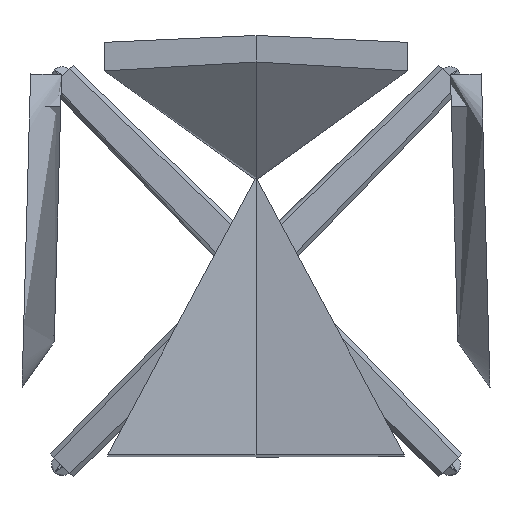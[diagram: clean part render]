
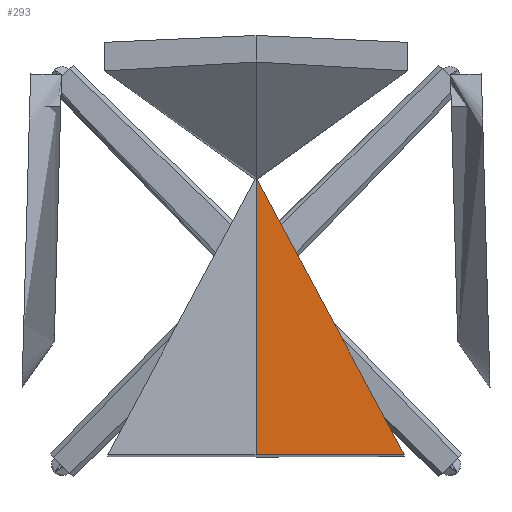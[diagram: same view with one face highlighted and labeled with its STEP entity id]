
A CAD part, top view. The second image highlights one B-rep face of the part: STEP entity #293.
In plain terms, the highlighted free-form (B-spline) face has degree [3, 3] with [4, 9] control points.
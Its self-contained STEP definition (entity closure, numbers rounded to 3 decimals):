
#23=B_SPLINE_SURFACE_WITH_KNOTS('',3,3,((#8548,#8549,#8550,#8551,#8552,
#8553,#8554,#8555,#8556),(#8557,#8558,#8559,#8560,#8561,#8562,#8563,#8564,
#8565),(#8566,#8567,#8568,#8569,#8570,#8571,#8572,#8573,#8574),(#8575,#8576,
#8577,#8578,#8579,#8580,#8581,#8582,#8583)),.UNSPECIFIED.,.F.,.F.,.F.,(4,
4),(4,1,1,1,1,1,4),(0.,313.738),(-441.798,-368.165,
-294.532,-220.899,-147.266,-73.633,
0.),.UNSPECIFIED.);
#108=B_SPLINE_CURVE_WITH_KNOTS('',3,(#11294,#11295,#11296,#11297,#11298,
#11299,#11300,#11301,#11302),.UNSPECIFIED.,.F.,.F.,(4,1,1,1,1,1,4),(0.,
73.633,147.266,220.899,294.532,368.165,
441.798),.UNSPECIFIED.);
#111=B_SPLINE_CURVE_WITH_KNOTS('',3,(#11319,#11320,#11321,#11322,#11323,
#11324,#11325,#11326,#11327,#11328,#11329,#11330,#11331,#11332,#11333,#11334,
#11335,#11336,#11337,#11338,#11339,#11340,#11341,#11342,#11343),
 .UNSPECIFIED.,.F.,.F.,(4,1,1,1,1,1,1,1,1,1,1,1,1,1,2,1,1,1,1,1,1,4),(0.,
4.583,9.166,13.749,18.332,22.915,
27.498,36.664,54.995,73.327,91.659,
100.825,109.991,119.157,120.717,128.322,
146.654,164.986,183.318,201.649,219.981,
238.313),.UNSPECIFIED.);
#115=B_SPLINE_CURVE_WITH_KNOTS('',3,(#11450,#11451,#11452,#11453),
 .UNSPECIFIED.,.F.,.F.,(4,4),(-146.56,0.),.UNSPECIFIED.);
#116=B_SPLINE_CURVE_WITH_KNOTS('',3,(#11454,#11455,#11456,#11457,#11458),
 .UNSPECIFIED.,.F.,.F.,(4,1,4),(298.037,368.165,441.798),
 .UNSPECIFIED.);
#117=B_SPLINE_CURVE_WITH_KNOTS('',3,(#11459,#11460,#11461,#11462,#11463,
#11464,#11465),.UNSPECIFIED.,.F.,.F.,(4,3,4),(0.,146.56,313.738),
 .UNSPECIFIED.);
#118=B_SPLINE_CURVE_WITH_KNOTS('',3,(#11466,#11467,#11468,#11469,#11470,
#11471,#11472,#11473),.UNSPECIFIED.,.F.,.F.,(4,1,1,1,1,4),(67.257,
73.633,147.266,220.899,294.532,298.037),
 .UNSPECIFIED.);
#293=ADVANCED_FACE('',(#469),#23,.T.);
#469=FACE_OUTER_BOUND('',#657,.T.);
#657=EDGE_LOOP('',(#1030,#1031,#1032,#1033,#1034,#1035));
#1030=ORIENTED_EDGE('',*,*,#1683,.T.);
#1031=ORIENTED_EDGE('',*,*,#1687,.T.);
#1032=ORIENTED_EDGE('',*,*,#1680,.T.);
#1033=ORIENTED_EDGE('',*,*,#1689,.T.);
#1034=ORIENTED_EDGE('',*,*,#1688,.F.);
#1035=ORIENTED_EDGE('',*,*,#1690,.F.);
#1680=EDGE_CURVE('',#2313,#2312,#108,.T.);
#1683=EDGE_CURVE('',#2316,#2314,#111,.T.);
#1687=EDGE_CURVE('',#2314,#2313,#115,.T.);
#1688=EDGE_CURVE('',#2317,#2318,#116,.T.);
#1689=EDGE_CURVE('',#2312,#2318,#117,.T.);
#1690=EDGE_CURVE('',#2316,#2317,#118,.T.);
#2312=VERTEX_POINT('',#10930);
#2313=VERTEX_POINT('',#10931);
#2314=VERTEX_POINT('',#10932);
#2316=VERTEX_POINT('',#10934);
#2317=VERTEX_POINT('',#10935);
#2318=VERTEX_POINT('',#10936);
#8548=CARTESIAN_POINT('',(0.,104.914,437.761));
#8549=CARTESIAN_POINT('',(72.274,104.914,437.761));
#8550=CARTESIAN_POINT('',(139.814,105.391,447.316));
#8551=CARTESIAN_POINT('',(167.339,105.784,455.164));
#8552=CARTESIAN_POINT('',(204.305,105.447,448.434));
#8553=CARTESIAN_POINT('',(243.614,104.723,433.949));
#8554=CARTESIAN_POINT('',(201.158,103.488,409.242));
#8555=CARTESIAN_POINT('',(109.984,102.476,389.004));
#8556=CARTESIAN_POINT('',(0.,102.476,389.004));
#8557=CARTESIAN_POINT('',(0.,0.465,442.983));
#8558=CARTESIAN_POINT('',(72.274,0.465,442.983));
#8559=CARTESIAN_POINT('',(139.814,0.943,452.538));
#8560=CARTESIAN_POINT('',(167.339,1.335,460.386));
#8561=CARTESIAN_POINT('',(204.305,0.999,453.657));
#8562=CARTESIAN_POINT('',(243.614,0.275,439.172));
#8563=CARTESIAN_POINT('',(201.158,-0.961,414.465));
#8564=CARTESIAN_POINT('',(99.643,-2.234,389.004));
#8565=CARTESIAN_POINT('',(0.,-2.234,389.004));
#8566=CARTESIAN_POINT('',(0.,-103.985,448.205));
#8567=CARTESIAN_POINT('',(72.274,-103.985,448.205));
#8568=CARTESIAN_POINT('',(139.814,-103.507,457.761));
#8569=CARTESIAN_POINT('',(167.339,-103.115,465.608));
#8570=CARTESIAN_POINT('',(204.305,-103.451,458.879));
#8571=CARTESIAN_POINT('',(243.614,-104.175,444.394));
#8572=CARTESIAN_POINT('',(201.158,-105.411,419.687));
#8573=CARTESIAN_POINT('',(89.303,-106.945,389.004));
#8574=CARTESIAN_POINT('',(0.,-106.945,389.004));
#8575=CARTESIAN_POINT('',(0.,-208.433,453.428));
#8576=CARTESIAN_POINT('',(72.274,-208.433,453.428));
#8577=CARTESIAN_POINT('',(139.814,-207.955,462.983));
#8578=CARTESIAN_POINT('',(167.339,-207.563,470.831));
#8579=CARTESIAN_POINT('',(204.305,-207.899,464.102));
#8580=CARTESIAN_POINT('',(243.614,-208.623,449.617));
#8581=CARTESIAN_POINT('',(201.158,-209.859,424.91));
#8582=CARTESIAN_POINT('',(78.963,-211.654,389.004));
#8583=CARTESIAN_POINT('',(0.,-211.654,389.004));
#10930=CARTESIAN_POINT('',(0.,104.914,437.761));
#10931=CARTESIAN_POINT('',(0.,102.476,389.004));
#10932=CARTESIAN_POINT('',(0.,-44.267,389.004));
#10934=CARTESIAN_POINT('',(167.387,-210.276,416.555));
#10935=CARTESIAN_POINT('',(167.387,-207.686,468.358));
#10936=CARTESIAN_POINT('',(0.,-208.433,453.428));
#11294=CARTESIAN_POINT('',(0.,102.476,389.004));
#11295=CARTESIAN_POINT('',(109.984,102.476,389.004));
#11296=CARTESIAN_POINT('',(201.158,103.488,409.242));
#11297=CARTESIAN_POINT('',(243.614,104.723,433.949));
#11298=CARTESIAN_POINT('',(204.305,105.447,448.434));
#11299=CARTESIAN_POINT('',(167.339,105.784,455.164));
#11300=CARTESIAN_POINT('',(139.814,105.391,447.316));
#11301=CARTESIAN_POINT('',(72.274,104.914,437.761));
#11302=CARTESIAN_POINT('',(0.,104.914,437.761));
#11319=CARTESIAN_POINT('',(167.387,-210.276,416.555));
#11320=CARTESIAN_POINT('',(166.318,-209.227,416.154));
#11321=CARTESIAN_POINT('',(164.186,-207.135,415.363));
#11322=CARTESIAN_POINT('',(161.002,-204.009,414.204));
#11323=CARTESIAN_POINT('',(157.833,-200.896,413.074));
#11324=CARTESIAN_POINT('',(154.675,-197.794,411.973));
#11325=CARTESIAN_POINT('',(151.529,-194.701,410.901));
#11326=CARTESIAN_POINT('',(147.346,-190.588,409.508));
#11327=CARTESIAN_POINT('',(140.052,-183.411,407.169));
#11328=CARTESIAN_POINT('',(129.681,-173.193,404.104));
#11329=CARTESIAN_POINT('',(117.217,-160.891,400.858));
#11330=CARTESIAN_POINT('',(106.735,-150.528,398.501));
#11331=CARTESIAN_POINT('',(98.246,-142.122,396.819));
#11332=CARTESIAN_POINT('',(91.814,-135.748,395.657));
#11333=CARTESIAN_POINT('',(87.106,-131.079,394.889));
#11334=CARTESIAN_POINT('',(84.548,-128.54,394.496));
#11335=CARTESIAN_POINT('',(82.359,-126.368,394.164));
#11336=CARTESIAN_POINT('',(76.166,-120.22,393.267));
#11337=CARTESIAN_POINT('',(65.604,-109.722,391.983));
#11338=CARTESIAN_POINT('',(52.491,-96.669,390.778));
#11339=CARTESIAN_POINT('',(39.38,-83.601,389.918));
#11340=CARTESIAN_POINT('',(26.265,-70.514,389.36));
#11341=CARTESIAN_POINT('',(13.142,-57.406,389.061));
#11342=CARTESIAN_POINT('',(4.383,-48.65,389.004));
#11343=CARTESIAN_POINT('',(0.,-44.267,389.004));
#11450=CARTESIAN_POINT('',(0.,-44.267,389.004));
#11451=CARTESIAN_POINT('',(0.,4.647,389.004));
#11452=CARTESIAN_POINT('',(0.,53.562,389.004));
#11453=CARTESIAN_POINT('',(0.,102.476,389.004));
#11454=CARTESIAN_POINT('',(167.387,-207.686,468.358));
#11455=CARTESIAN_POINT('',(157.263,-207.706,467.963));
#11456=CARTESIAN_POINT('',(138.206,-207.966,462.756));
#11457=CARTESIAN_POINT('',(72.274,-208.433,453.428));
#11458=CARTESIAN_POINT('',(0.,-208.433,453.428));
#11459=CARTESIAN_POINT('',(0.,104.914,437.761));
#11460=CARTESIAN_POINT('',(0.,56.122,440.2));
#11461=CARTESIAN_POINT('',(0.,7.329,442.64));
#11462=CARTESIAN_POINT('',(0.,-41.463,445.079));
#11463=CARTESIAN_POINT('',(0.,-97.12,447.862));
#11464=CARTESIAN_POINT('',(0.,-152.777,450.645));
#11465=CARTESIAN_POINT('',(0.,-208.433,453.428));
#11466=CARTESIAN_POINT('',(167.387,-210.276,416.555));
#11467=CARTESIAN_POINT('',(170.993,-210.217,417.747));
#11468=CARTESIAN_POINT('',(214.085,-209.482,432.432));
#11469=CARTESIAN_POINT('',(243.614,-208.623,449.617));
#11470=CARTESIAN_POINT('',(204.305,-207.899,464.102));
#11471=CARTESIAN_POINT('',(179.075,-207.669,468.695));
#11472=CARTESIAN_POINT('',(167.893,-207.685,468.378));
#11473=CARTESIAN_POINT('',(167.387,-207.686,468.358));
